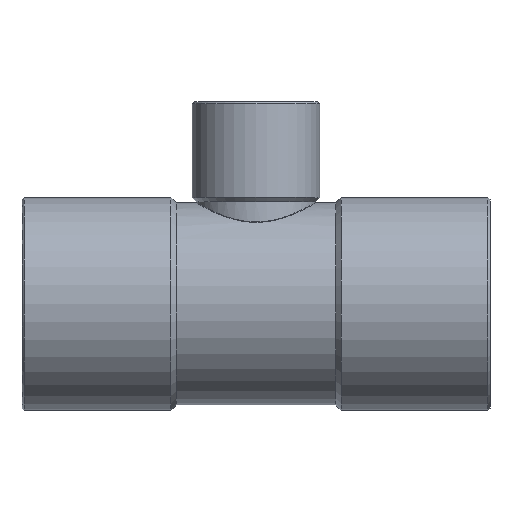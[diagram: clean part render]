
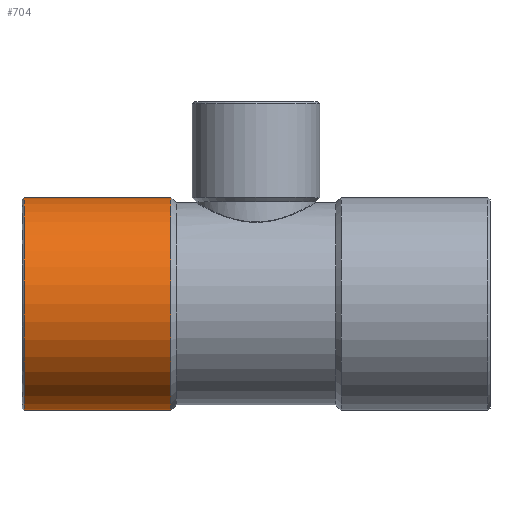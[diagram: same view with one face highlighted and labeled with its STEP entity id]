
A CAD part, top view. The second image highlights one B-rep face of the part: STEP entity #704.
In plain terms, the highlighted cylindrical face has radius 10 mm (diameter 20 mm), a partial arc.
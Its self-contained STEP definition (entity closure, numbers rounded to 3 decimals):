
#178=CARTESIAN_POINT('',(-8.0,10.0,0.0));
#179=VERTEX_POINT('',#178);
#186=CARTESIAN_POINT('',(-8.,-10.0,0.));
#187=VERTEX_POINT('',#186);
#188=CARTESIAN_POINT('',(-8.0,0.0,0.0));
#189=DIRECTION('',(1.0,0.0,0.0));
#190=DIRECTION('',(0.0,1.0,0.0));
#191=AXIS2_PLACEMENT_3D('',#188,#189,#190);
#192=CIRCLE('',#191,10.0);
#193=EDGE_CURVE('',#179,#187,#192,.T.);
#673=CARTESIAN_POINT('',(-15.0,0.0,0.0));
#674=DIRECTION('',(1.0,0.0,0.0));
#675=DIRECTION('',(0.0,1.0,0.0));
#676=AXIS2_PLACEMENT_3D('',#673,#674,#675);
#677=CYLINDRICAL_SURFACE('',#676,10.);
#678=CARTESIAN_POINT('',(-21.8,10.,0.));
#679=VERTEX_POINT('',#678);
#680=CARTESIAN_POINT('',(-21.8,10.,0.));
#681=DIRECTION('',(1.0,0.0,0.0));
#682=VECTOR('',#681,13.8);
#683=LINE('',#680,#682);
#684=EDGE_CURVE('',#679,#179,#683,.T.);
#685=ORIENTED_EDGE('',*,*,#684,.F.);
#686=CARTESIAN_POINT('',(-21.8,-10.,0.));
#687=VERTEX_POINT('',#686);
#688=CARTESIAN_POINT('',(-21.8,0.0,0.0));
#689=DIRECTION('',(-1.0,0.0,0.0));
#690=DIRECTION('',(0.0,-1.0,0.0));
#691=AXIS2_PLACEMENT_3D('',#688,#689,#690);
#692=CIRCLE('',#691,10.);
#693=EDGE_CURVE('',#687,#679,#692,.T.);
#694=ORIENTED_EDGE('',*,*,#693,.F.);
#695=CARTESIAN_POINT('',(-8.,-10.0,0.));
#696=DIRECTION('',(-1.0,0.0,0.0));
#697=VECTOR('',#696,13.8);
#698=LINE('',#695,#697);
#699=EDGE_CURVE('',#187,#687,#698,.T.);
#700=ORIENTED_EDGE('',*,*,#699,.F.);
#701=ORIENTED_EDGE('',*,*,#193,.F.);
#702=EDGE_LOOP('',(#685,#694,#700,#701));
#703=FACE_OUTER_BOUND('',#702,.T.);
#704=ADVANCED_FACE('',(#703),#677,.T.);
